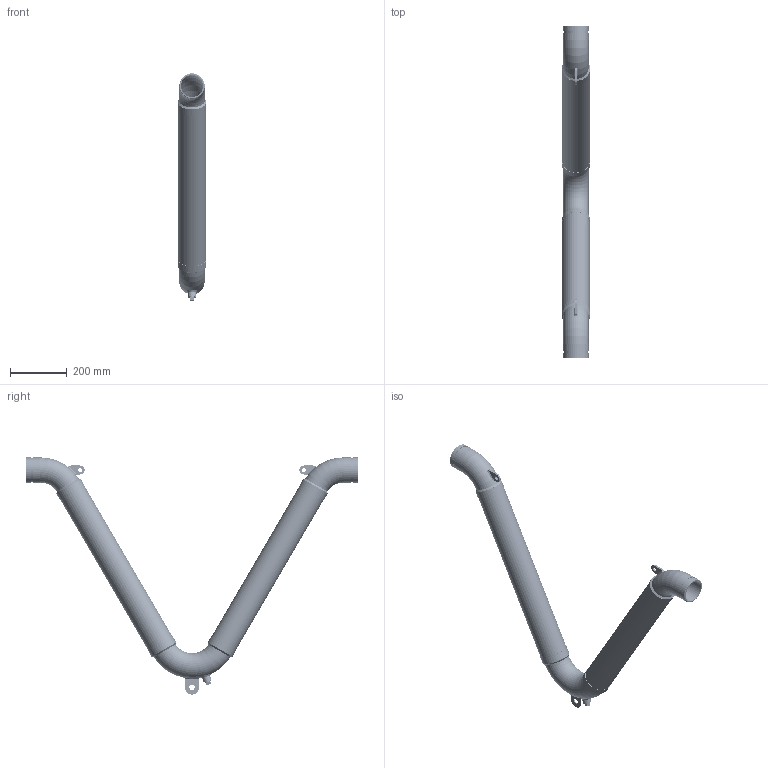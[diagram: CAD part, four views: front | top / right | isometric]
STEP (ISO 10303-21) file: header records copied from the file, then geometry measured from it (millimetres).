
FILE_DESCRIPTION((''),'2;1');
FILE_NAME('\\Mleuckt7400\cad-proe_solids2\WEBSITE FILES 05.22.13\STEP\VGWN\VGWN-3.stp','2013-07-23T09:51:49',('rramoutar'),(''),'Autodesk Inventor 2012','Autodesk Inventor 2012','');
FILE_SCHEMA(('AUTOMOTIVE_DESIGN { 1 0 10303 214 1 1 1 1 }'));
Length unit declared in the file: inch
Products named in the file (12): A-30590-3 VGN-3 inch.iam (LevelofDetail1); A-30590-3 VGN-3 inch.iam (LevelofDetail1)_Welds; A-30590-3 ELBOW 120 DEG FOR 3 INCH VGN; A-29795-1 CLIP VMN,VGN,VFL 2 TO 4 INCH; A-28693-2 SUPORT CLIP VMN,VGN,VFL 3INCH, 4INCH; A-30713 A36 STEEL PLUG 0.5 inch; A-30713 A36 STEEL COUPLING 0.5 inch; A-30590-3 VGN 3.0 INCH NIPPLE; A-30590-3 ELBOW 60 DEG FOR 3 INCH VGN; A-29781-7 VGN 3 inch BRAID COLLAR; A-29781-7 VGN-3 inch BRAID; A-29781-7 VGN 3.0 inch STAINLESS STEEL HOSE
Assembly tree (19 placements, depth 2):
  A-30590-3 VGN-3 inch.iam (LevelofDetail1)
    A-30590-3 VGN-3 inch.iam (LevelofDetail1)_Welds
    A-30590-3 ELBOW 120 DEG FOR 3 INCH VGN
    A-29795-1 CLIP VMN,VGN,VFL 2 TO 4 INCH  x2
    A-28693-2 SUPORT CLIP VMN,VGN,VFL 3INCH, 4INCH
    A-30713 A36 STEEL PLUG 0.5 inch
    A-30713 A36 STEEL COUPLING 0.5 inch
    A-30590-3 VGN 3.0 INCH NIPPLE  x2
    A-30590-3 ELBOW 60 DEG FOR 3 INCH VGN  x2
    A-29781-7 VGN 3 inch BRAID COLLAR  x4
    A-29781-7 VGN-3 inch BRAID  x2
    A-29781-7 VGN 3.0 inch STAINLESS STEEL HOSE  x2
Bounding box: 100.41 x 1168.4 x 835.02 mm (x, y, z)
Volume: 1610538.6 mm3; surface area: 3849330.1 mm2
Topology: 26 solids, 26 shells, 1755 faces, 2709 edges, 1807 vertices
Faces by surface type: plane 878, torus 822, cylinder 36, bspline 15, cone 4
Full cylindrical faces by diameter (mm): 14.288 x2, 18.256 x1, 19.05 x1, 21.336 x2, 28.575 x3, 77.927 x2, 84.938 x2, 88.9 x4, 97.028 x2, 97.841 x6, 100.222 x4
Entity records: 24760 total; most frequent: CARTESIAN_POINT 8619, DIRECTION 3641, ORIENTED_EDGE 1974, AXIS2_PLACEMENT_3D 1800, EDGE_LOOP 1772, EDGE_CURVE 987, VERTEX_POINT 943, FACE_OUTER_BOUND 910
